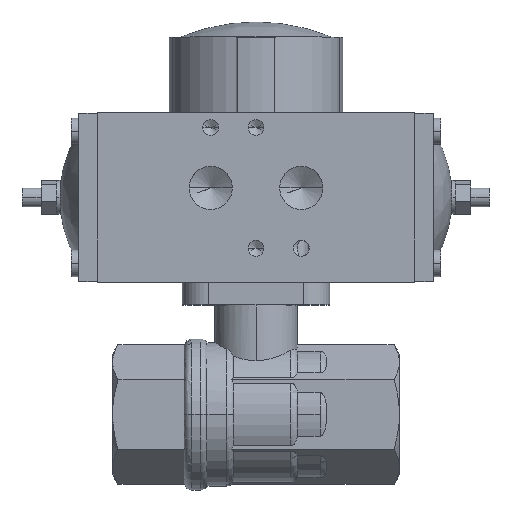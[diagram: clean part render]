
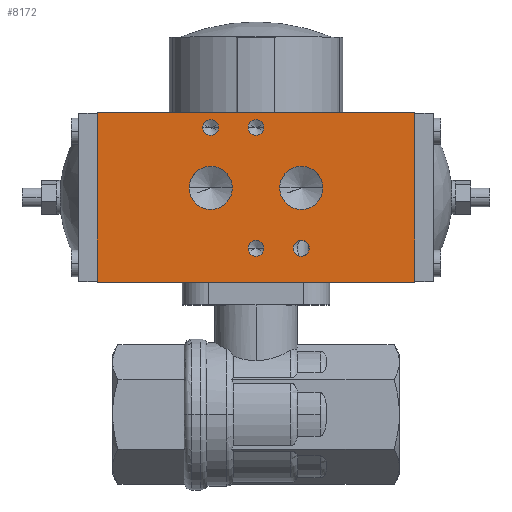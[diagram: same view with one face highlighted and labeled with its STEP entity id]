
A CAD part, top view. The second image highlights one B-rep face of the part: STEP entity #8172.
In plain terms, the highlighted planar face has unit normal (0, 0, 1) as drawn and (1, 0, 0) by its records, which use the part's own axes.
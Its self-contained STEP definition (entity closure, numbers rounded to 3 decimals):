
#432 = CARTESIAN_POINT ( 'NONE',  ( 28.5, 18.5, 12. ) ) ;
#433 = DIRECTION ( 'NONE',  ( 1., 0., 0. ) ) ;
#434 = DIRECTION ( 'NONE',  ( 0., 0., -1. ) ) ;
#449 = CARTESIAN_POINT ( 'NONE',  ( 28.5, -13.5, -12. ) ) ;
#450 = DIRECTION ( 'NONE',  ( 1., 0., 0. ) ) ;
#451 = DIRECTION ( 'NONE',  ( 0., 0., -1. ) ) ;
#476 = CARTESIAN_POINT ( 'NONE',  ( 28.5, -13.5, 0. ) ) ;
#477 = DIRECTION ( 'NONE',  ( 1., 0., 0. ) ) ;
#478 = DIRECTION ( 'NONE',  ( 0., 0., -1. ) ) ;
#494 = CARTESIAN_POINT ( 'NONE',  ( 28.5, 18.5, 0. ) ) ;
#495 = DIRECTION ( 'NONE',  ( 1., 0., 0. ) ) ;
#496 = DIRECTION ( 'NONE',  ( 0., 0., -1. ) ) ;
#512 = CARTESIAN_POINT ( 'NONE',  ( 28.5, 2.5, -12. ) ) ;
#513 = DIRECTION ( 'NONE',  ( 1., 0., 0. ) ) ;
#514 = DIRECTION ( 'NONE',  ( 0., 0., -1. ) ) ;
#530 = CARTESIAN_POINT ( 'NONE',  ( 28.5, 2.5, 12. ) ) ;
#531 = DIRECTION ( 'NONE',  ( 1., 0., 0. ) ) ;
#532 = DIRECTION ( 'NONE',  ( 0., 0., -1. ) ) ;
#967 = LINE ( 'NONE', #976, #6992 ) ;
#976 = CARTESIAN_POINT ( 'NONE',  ( 28.5, -22.5, -42. ) ) ;
#977 = DIRECTION ( 'NONE',  ( 0., 1., 0. ) ) ;
#999 = LINE ( 'NONE', #1000, #7009 ) ;
#1000 = CARTESIAN_POINT ( 'NONE',  ( 28.5, -22.5, 42. ) ) ;
#1001 = DIRECTION ( 'NONE',  ( 0., 1., 0. ) ) ;
#3571 = CARTESIAN_POINT ( 'NONE',  ( 28.5, -22.5, -42. ) ) ;
#3575 = FACE_BOUND ( 'NONE', #12260, .T. ) ;
#3578 = FACE_BOUND ( 'NONE', #12238, .T. ) ;
#3579 = FACE_BOUND ( 'NONE', #12236, .T. ) ;
#3580 = FACE_BOUND ( 'NONE', #12245, .T. ) ;
#3581 = FACE_OUTER_BOUND ( 'NONE', #7566, .T. ) ;
#3582 = FACE_BOUND ( 'NONE', #12237, .T. ) ;
#3583 = PLANE ( 'NONE',  #10980 ) ;
#3584 = FACE_BOUND ( 'NONE', #12239, .T. ) ;
#3587 = DIRECTION ( 'NONE',  ( 1., 0., 0. ) ) ;
#3588 = DIRECTION ( 'NONE',  ( 0., 0., -1. ) ) ;
#3860 = LINE ( 'NONE', #3861, #11065 ) ;
#3861 = CARTESIAN_POINT ( 'NONE',  ( 28.5, 22.5, -42. ) ) ;
#3868 = DIRECTION ( 'NONE',  ( 0., 0., 1. ) ) ;
#3869 = CARTESIAN_POINT ( 'NONE',  ( 28.5, -22.5, -42. ) ) ;
#3870 = CARTESIAN_POINT ( 'NONE',  ( 28.5, 18.5, 12. ) ) ;
#3871 = DIRECTION ( 'NONE',  ( 1., 0., 0. ) ) ;
#3872 = DIRECTION ( 'NONE',  ( 0., 0., -1. ) ) ;
#3873 = CARTESIAN_POINT ( 'NONE',  ( 28.5, -13.5, -12. ) ) ;
#3874 = DIRECTION ( 'NONE',  ( 1., 0., 0. ) ) ;
#3875 = DIRECTION ( 'NONE',  ( 0., 0., -1. ) ) ;
#3876 = CARTESIAN_POINT ( 'NONE',  ( 28.5, -13.5, 0. ) ) ;
#3877 = DIRECTION ( 'NONE',  ( 1., 0., 0. ) ) ;
#3878 = DIRECTION ( 'NONE',  ( 0., 0., -1. ) ) ;
#3879 = CARTESIAN_POINT ( 'NONE',  ( 28.5, 18.5, 0. ) ) ;
#3880 = DIRECTION ( 'NONE',  ( 1., 0., 0. ) ) ;
#3881 = DIRECTION ( 'NONE',  ( 0., 0., -1. ) ) ;
#3882 = CARTESIAN_POINT ( 'NONE',  ( 28.5, 2.5, -12. ) ) ;
#3883 = DIRECTION ( 'NONE',  ( 1., 0., 0. ) ) ;
#3884 = DIRECTION ( 'NONE',  ( 0., 0., -1. ) ) ;
#3885 = LINE ( 'NONE', #3869, #11076 ) ;
#3886 = CARTESIAN_POINT ( 'NONE',  ( 28.5, 2.5, 12. ) ) ;
#3887 = DIRECTION ( 'NONE',  ( 1., 0., 0. ) ) ;
#3888 = DIRECTION ( 'NONE',  ( 0., 0., -1. ) ) ;
#3889 = DIRECTION ( 'NONE',  ( 0., 0., 1. ) ) ;
#4524 = VERTEX_POINT ( 'NONE', #12646 ) ;
#4525 = VERTEX_POINT ( 'NONE', #12647 ) ;
#4533 = VERTEX_POINT ( 'NONE', #12655 ) ;
#4534 = VERTEX_POINT ( 'NONE', #12656 ) ;
#4622 = VERTEX_POINT ( 'NONE', #12744 ) ;
#4623 = VERTEX_POINT ( 'NONE', #12745 ) ;
#4625 = VERTEX_POINT ( 'NONE', #12747 ) ;
#4626 = VERTEX_POINT ( 'NONE', #12748 ) ;
#4633 = VERTEX_POINT ( 'NONE', #12755 ) ;
#4638 = VERTEX_POINT ( 'NONE', #12760 ) ;
#4642 = VERTEX_POINT ( 'NONE', #12764 ) ;
#4647 = VERTEX_POINT ( 'NONE', #12769 ) ;
#4816 = VERTEX_POINT ( 'NONE', #12938 ) ;
#4817 = VERTEX_POINT ( 'NONE', #12939 ) ;
#6743 = CIRCLE ( 'NONE', #6753, 2.1 ) ;
#6751 = CIRCLE ( 'NONE', #6761, 2.1 ) ;
#6753 = AXIS2_PLACEMENT_3D ( 'NONE', #432, #433, #434 ) ;
#6759 = CIRCLE ( 'NONE', #6769, 2.1 ) ;
#6761 = AXIS2_PLACEMENT_3D ( 'NONE', #449, #450, #451 ) ;
#6769 = AXIS2_PLACEMENT_3D ( 'NONE', #476, #477, #478 ) ;
#6773 = CIRCLE ( 'NONE', #6777, 2.1 ) ;
#6777 = AXIS2_PLACEMENT_3D ( 'NONE', #494, #495, #496 ) ;
#6781 = CIRCLE ( 'NONE', #6785, 5.722 ) ;
#6785 = AXIS2_PLACEMENT_3D ( 'NONE', #512, #513, #514 ) ;
#6789 = CIRCLE ( 'NONE', #6793, 5.722 ) ;
#6793 = AXIS2_PLACEMENT_3D ( 'NONE', #530, #531, #532 ) ;
#6992 = VECTOR ( 'NONE', #977, 1000. ) ;
#7009 = VECTOR ( 'NONE', #1001, 1000. ) ;
#7230 = VERTEX_POINT ( 'NONE', #12952 ) ;
#7231 = VERTEX_POINT ( 'NONE', #12953 ) ;
#7566 = EDGE_LOOP ( 'NONE', ( #8512, #8513, #8514, #8515 ) ) ;
#7817 = ORIENTED_EDGE ( 'NONE', *, *, #8218, .F. ) ;
#7818 = ORIENTED_EDGE ( 'NONE', *, *, #9973, .F. ) ;
#7819 = ORIENTED_EDGE ( 'NONE', *, *, #8219, .F. ) ;
#7820 = ORIENTED_EDGE ( 'NONE', *, *, #9979, .F. ) ;
#8172 = ADVANCED_FACE ( 'NONE', ( #3579, #3575, #3582, #3584, #3578, #3580, #3581 ), #3583, .T. ) ;
#8217 = EDGE_CURVE ( 'NONE', #4525, #4534, #3860, .T. ) ;
#8218 = EDGE_CURVE ( 'NONE', #4642, #4633, #11057, .T. ) ;
#8219 = EDGE_CURVE ( 'NONE', #4647, #4638, #11067, .T. ) ;
#8220 = EDGE_CURVE ( 'NONE', #4622, #4623, #11068, .T. ) ;
#8221 = EDGE_CURVE ( 'NONE', #4626, #4625, #11070, .T. ) ;
#8222 = EDGE_CURVE ( 'NONE', #4817, #4816, #11072, .T. ) ;
#8223 = EDGE_CURVE ( 'NONE', #7230, #7231, #11074, .T. ) ;
#8224 = EDGE_CURVE ( 'NONE', #4524, #4533, #3885, .T. ) ;
#8504 = ORIENTED_EDGE ( 'NONE', *, *, #8220, .F. ) ;
#8505 = ORIENTED_EDGE ( 'NONE', *, *, #9985, .F. ) ;
#8506 = ORIENTED_EDGE ( 'NONE', *, *, #8221, .F. ) ;
#8507 = ORIENTED_EDGE ( 'NONE', *, *, #9991, .F. ) ;
#8508 = ORIENTED_EDGE ( 'NONE', *, *, #8222, .F. ) ;
#8509 = ORIENTED_EDGE ( 'NONE', *, *, #9997, .F. ) ;
#8510 = ORIENTED_EDGE ( 'NONE', *, *, #8223, .F. ) ;
#8511 = ORIENTED_EDGE ( 'NONE', *, *, #10003, .F. ) ;
#8512 = ORIENTED_EDGE ( 'NONE', *, *, #8217, .T. ) ;
#8513 = ORIENTED_EDGE ( 'NONE', *, *, #10159, .F. ) ;
#8514 = ORIENTED_EDGE ( 'NONE', *, *, #8224, .F. ) ;
#8515 = ORIENTED_EDGE ( 'NONE', *, *, #10151, .T. ) ;
#9973 = EDGE_CURVE ( 'NONE', #4633, #4642, #6743, .T. ) ;
#9979 = EDGE_CURVE ( 'NONE', #4638, #4647, #6751, .T. ) ;
#9985 = EDGE_CURVE ( 'NONE', #4623, #4622, #6759, .T. ) ;
#9991 = EDGE_CURVE ( 'NONE', #4625, #4626, #6773, .T. ) ;
#9997 = EDGE_CURVE ( 'NONE', #4816, #4817, #6781, .T. ) ;
#10003 = EDGE_CURVE ( 'NONE', #7231, #7230, #6789, .T. ) ;
#10151 = EDGE_CURVE ( 'NONE', #4524, #4525, #967, .T. ) ;
#10159 = EDGE_CURVE ( 'NONE', #4533, #4534, #999, .T. ) ;
#10980 = AXIS2_PLACEMENT_3D ( 'NONE', #3571, #3587, #3588 ) ;
#11057 = CIRCLE ( 'NONE', #11069, 2.1 ) ;
#11065 = VECTOR ( 'NONE', #3868, 1000. ) ;
#11067 = CIRCLE ( 'NONE', #11071, 2.1 ) ;
#11068 = CIRCLE ( 'NONE', #11073, 2.1 ) ;
#11069 = AXIS2_PLACEMENT_3D ( 'NONE', #3870, #3871, #3872 ) ;
#11070 = CIRCLE ( 'NONE', #11075, 2.1 ) ;
#11071 = AXIS2_PLACEMENT_3D ( 'NONE', #3873, #3874, #3875 ) ;
#11072 = CIRCLE ( 'NONE', #11077, 5.722 ) ;
#11073 = AXIS2_PLACEMENT_3D ( 'NONE', #3876, #3877, #3878 ) ;
#11074 = CIRCLE ( 'NONE', #11079, 5.722 ) ;
#11075 = AXIS2_PLACEMENT_3D ( 'NONE', #3879, #3880, #3881 ) ;
#11076 = VECTOR ( 'NONE', #3889, 1000. ) ;
#11077 = AXIS2_PLACEMENT_3D ( 'NONE', #3882, #3883, #3884 ) ;
#11079 = AXIS2_PLACEMENT_3D ( 'NONE', #3886, #3887, #3888 ) ;
#12236 = EDGE_LOOP ( 'NONE', ( #7817, #7818 ) ) ;
#12237 = EDGE_LOOP ( 'NONE', ( #8504, #8505 ) ) ;
#12238 = EDGE_LOOP ( 'NONE', ( #8508, #8509 ) ) ;
#12239 = EDGE_LOOP ( 'NONE', ( #8506, #8507 ) ) ;
#12245 = EDGE_LOOP ( 'NONE', ( #8510, #8511 ) ) ;
#12260 = EDGE_LOOP ( 'NONE', ( #7819, #7820 ) ) ;
#12646 = CARTESIAN_POINT ( 'NONE',  ( 28.5, -22.5, -42. ) ) ;
#12647 = CARTESIAN_POINT ( 'NONE',  ( 28.5, 22.5, -42. ) ) ;
#12655 = CARTESIAN_POINT ( 'NONE',  ( 28.5, -22.5, 42. ) ) ;
#12656 = CARTESIAN_POINT ( 'NONE',  ( 28.5, 22.5, 42. ) ) ;
#12744 = CARTESIAN_POINT ( 'NONE',  ( 28.5, -13.5, -2.1 ) ) ;
#12745 = CARTESIAN_POINT ( 'NONE',  ( 28.5, -13.5, 2.1 ) ) ;
#12747 = CARTESIAN_POINT ( 'NONE',  ( 28.5, 18.5, 2.1 ) ) ;
#12748 = CARTESIAN_POINT ( 'NONE',  ( 28.5, 18.5, -2.1 ) ) ;
#12755 = CARTESIAN_POINT ( 'NONE',  ( 28.5, 18.5, 14.1 ) ) ;
#12760 = CARTESIAN_POINT ( 'NONE',  ( 28.5, -13.5, -9.9 ) ) ;
#12764 = CARTESIAN_POINT ( 'NONE',  ( 28.5, 18.5, 9.9 ) ) ;
#12769 = CARTESIAN_POINT ( 'NONE',  ( 28.5, -13.5, -14.1 ) ) ;
#12938 = CARTESIAN_POINT ( 'NONE',  ( 28.5, 2.5, -6.277 ) ) ;
#12939 = CARTESIAN_POINT ( 'NONE',  ( 28.5, 2.5, -17.722 ) ) ;
#12952 = CARTESIAN_POINT ( 'NONE',  ( 28.5, 2.5, 6.277 ) ) ;
#12953 = CARTESIAN_POINT ( 'NONE',  ( 28.5, 2.5, 17.722 ) ) ;
